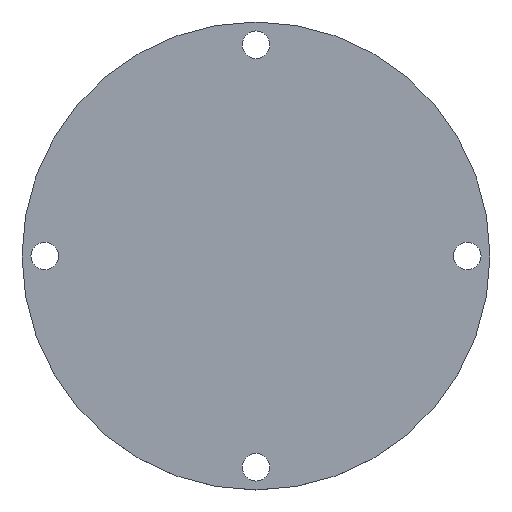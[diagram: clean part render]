
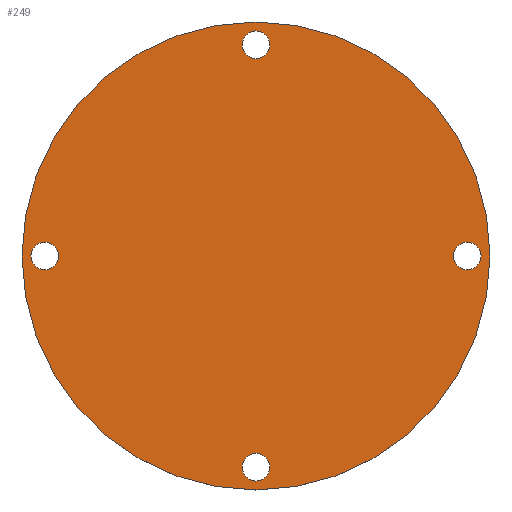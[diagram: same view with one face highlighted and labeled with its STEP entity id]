
A CAD part, top view. The second image highlights one B-rep face of the part: STEP entity #249.
In plain terms, the highlighted planar face has unit normal (0, 0, 1).
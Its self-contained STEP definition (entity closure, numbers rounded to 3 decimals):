
#24 = VERTEX_POINT('',#25);
#25 = CARTESIAN_POINT('',(28.8,0.,2.));
#32 = CYLINDRICAL_SURFACE('',#33,28.8);
#33 = AXIS2_PLACEMENT_3D('',#34,#35,#36);
#34 = CARTESIAN_POINT('',(0.,0.,0.));
#35 = DIRECTION('',(-0.,-0.,-1.));
#36 = DIRECTION('',(1.,0.,0.));
#51 = EDGE_CURVE('',#24,#24,#52,.T.);
#52 = SURFACE_CURVE('',#53,(#58,#65),.PCURVE_S1.);
#53 = CIRCLE('',#54,28.8);
#54 = AXIS2_PLACEMENT_3D('',#55,#56,#57);
#55 = CARTESIAN_POINT('',(0.,0.,2.));
#56 = DIRECTION('',(0.,0.,1.));
#57 = DIRECTION('',(1.,0.,0.));
#58 = PCURVE('',#32,#59);
#59 = DEFINITIONAL_REPRESENTATION('',(#60),#64);
#60 = LINE('',#61,#62);
#61 = CARTESIAN_POINT('',(-0.,-2.));
#62 = VECTOR('',#63,1.);
#63 = DIRECTION('',(-1.,0.));
#64 = ( GEOMETRIC_REPRESENTATION_CONTEXT(2) 
PARAMETRIC_REPRESENTATION_CONTEXT() REPRESENTATION_CONTEXT('2D SPACE',''
  ) );
#65 = PCURVE('',#66,#71);
#66 = PLANE('',#67);
#67 = AXIS2_PLACEMENT_3D('',#68,#69,#70);
#68 = CARTESIAN_POINT('',(0.,0.,2.));
#69 = DIRECTION('',(0.,0.,1.));
#70 = DIRECTION('',(1.,0.,-0.));
#71 = DEFINITIONAL_REPRESENTATION('',(#72),#76);
#72 = CIRCLE('',#73,28.8);
#73 = AXIS2_PLACEMENT_2D('',#74,#75);
#74 = CARTESIAN_POINT('',(0.,0.));
#75 = DIRECTION('',(1.,0.));
#76 = ( GEOMETRIC_REPRESENTATION_CONTEXT(2) 
PARAMETRIC_REPRESENTATION_CONTEXT() REPRESENTATION_CONTEXT('2D SPACE',''
  ) );
#133 = CYLINDRICAL_SURFACE('',#134,1.7);
#134 = AXIS2_PLACEMENT_3D('',#135,#136,#137);
#135 = CARTESIAN_POINT('',(0.,-26.,-0.1));
#136 = DIRECTION('',(-0.,-0.,-1.));
#137 = DIRECTION('',(1.,0.,0.));
#168 = CYLINDRICAL_SURFACE('',#169,1.7);
#169 = AXIS2_PLACEMENT_3D('',#170,#171,#172);
#170 = CARTESIAN_POINT('',(-26.,0.,-0.1));
#171 = DIRECTION('',(-0.,-0.,-1.));
#172 = DIRECTION('',(1.,0.,0.));
#203 = CYLINDRICAL_SURFACE('',#204,1.7);
#204 = AXIS2_PLACEMENT_3D('',#205,#206,#207);
#205 = CARTESIAN_POINT('',(26.,0.,-0.1));
#206 = DIRECTION('',(-0.,-0.,-1.));
#207 = DIRECTION('',(1.,0.,0.));
#238 = CYLINDRICAL_SURFACE('',#239,1.7);
#239 = AXIS2_PLACEMENT_3D('',#240,#241,#242);
#240 = CARTESIAN_POINT('',(0.,26.,-0.1));
#241 = DIRECTION('',(-0.,-0.,-1.));
#242 = DIRECTION('',(1.,0.,0.));
#249 = ADVANCED_FACE('',(#250,#253,#283,#313,#343),#66,.T.);
#250 = FACE_BOUND('',#251,.T.);
#251 = EDGE_LOOP('',(#252));
#252 = ORIENTED_EDGE('',*,*,#51,.T.);
#253 = FACE_BOUND('',#254,.T.);
#254 = EDGE_LOOP('',(#255));
#255 = ORIENTED_EDGE('',*,*,#256,.T.);
#256 = EDGE_CURVE('',#257,#257,#259,.T.);
#257 = VERTEX_POINT('',#258);
#258 = CARTESIAN_POINT('',(1.7,-26.,2.));
#259 = SURFACE_CURVE('',#260,(#265,#276),.PCURVE_S1.);
#260 = CIRCLE('',#261,1.7);
#261 = AXIS2_PLACEMENT_3D('',#262,#263,#264);
#262 = CARTESIAN_POINT('',(0.,-26.,2.));
#263 = DIRECTION('',(0.,0.,-1.));
#264 = DIRECTION('',(1.,0.,0.));
#265 = PCURVE('',#66,#266);
#266 = DEFINITIONAL_REPRESENTATION('',(#267),#275);
#267 = ( BOUNDED_CURVE() B_SPLINE_CURVE(2,(#268,#269,#270,#271,#272,#273
,#274),.UNSPECIFIED.,.T.,.F.) B_SPLINE_CURVE_WITH_KNOTS((1,2,2,2,2,1),(
    -2.094,0.,2.094,4.189,6.283,
8.378),.UNSPECIFIED.) CURVE() GEOMETRIC_REPRESENTATION_ITEM() 
RATIONAL_B_SPLINE_CURVE((1.,0.5,1.,0.5,1.,0.5,1.)) REPRESENTATION_ITEM(
  '') );
#268 = CARTESIAN_POINT('',(1.7,-26.));
#269 = CARTESIAN_POINT('',(1.7,-28.944));
#270 = CARTESIAN_POINT('',(-0.85,-27.472));
#271 = CARTESIAN_POINT('',(-3.4,-26.));
#272 = CARTESIAN_POINT('',(-0.85,-24.528));
#273 = CARTESIAN_POINT('',(1.7,-23.056));
#274 = CARTESIAN_POINT('',(1.7,-26.));
#275 = ( GEOMETRIC_REPRESENTATION_CONTEXT(2) 
PARAMETRIC_REPRESENTATION_CONTEXT() REPRESENTATION_CONTEXT('2D SPACE',''
  ) );
#276 = PCURVE('',#133,#277);
#277 = DEFINITIONAL_REPRESENTATION('',(#278),#282);
#278 = LINE('',#279,#280);
#279 = CARTESIAN_POINT('',(-6.283,-2.1));
#280 = VECTOR('',#281,1.);
#281 = DIRECTION('',(1.,-0.));
#282 = ( GEOMETRIC_REPRESENTATION_CONTEXT(2) 
PARAMETRIC_REPRESENTATION_CONTEXT() REPRESENTATION_CONTEXT('2D SPACE',''
  ) );
#283 = FACE_BOUND('',#284,.T.);
#284 = EDGE_LOOP('',(#285));
#285 = ORIENTED_EDGE('',*,*,#286,.T.);
#286 = EDGE_CURVE('',#287,#287,#289,.T.);
#287 = VERTEX_POINT('',#288);
#288 = CARTESIAN_POINT('',(-24.3,0.,2.));
#289 = SURFACE_CURVE('',#290,(#295,#306),.PCURVE_S1.);
#290 = CIRCLE('',#291,1.7);
#291 = AXIS2_PLACEMENT_3D('',#292,#293,#294);
#292 = CARTESIAN_POINT('',(-26.,0.,2.));
#293 = DIRECTION('',(0.,0.,-1.));
#294 = DIRECTION('',(1.,0.,0.));
#295 = PCURVE('',#66,#296);
#296 = DEFINITIONAL_REPRESENTATION('',(#297),#305);
#297 = ( BOUNDED_CURVE() B_SPLINE_CURVE(2,(#298,#299,#300,#301,#302,#303
,#304),.UNSPECIFIED.,.T.,.F.) B_SPLINE_CURVE_WITH_KNOTS((1,2,2,2,2,1),(
    -2.094,0.,2.094,4.189,6.283,
8.378),.UNSPECIFIED.) CURVE() GEOMETRIC_REPRESENTATION_ITEM() 
RATIONAL_B_SPLINE_CURVE((1.,0.5,1.,0.5,1.,0.5,1.)) REPRESENTATION_ITEM(
  '') );
#298 = CARTESIAN_POINT('',(-24.3,0.));
#299 = CARTESIAN_POINT('',(-24.3,-2.944));
#300 = CARTESIAN_POINT('',(-26.85,-1.472));
#301 = CARTESIAN_POINT('',(-29.4,0.));
#302 = CARTESIAN_POINT('',(-26.85,1.472));
#303 = CARTESIAN_POINT('',(-24.3,2.944));
#304 = CARTESIAN_POINT('',(-24.3,0.));
#305 = ( GEOMETRIC_REPRESENTATION_CONTEXT(2) 
PARAMETRIC_REPRESENTATION_CONTEXT() REPRESENTATION_CONTEXT('2D SPACE',''
  ) );
#306 = PCURVE('',#168,#307);
#307 = DEFINITIONAL_REPRESENTATION('',(#308),#312);
#308 = LINE('',#309,#310);
#309 = CARTESIAN_POINT('',(-6.283,-2.1));
#310 = VECTOR('',#311,1.);
#311 = DIRECTION('',(1.,-0.));
#312 = ( GEOMETRIC_REPRESENTATION_CONTEXT(2) 
PARAMETRIC_REPRESENTATION_CONTEXT() REPRESENTATION_CONTEXT('2D SPACE',''
  ) );
#313 = FACE_BOUND('',#314,.T.);
#314 = EDGE_LOOP('',(#315));
#315 = ORIENTED_EDGE('',*,*,#316,.T.);
#316 = EDGE_CURVE('',#317,#317,#319,.T.);
#317 = VERTEX_POINT('',#318);
#318 = CARTESIAN_POINT('',(27.7,0.,2.));
#319 = SURFACE_CURVE('',#320,(#325,#336),.PCURVE_S1.);
#320 = CIRCLE('',#321,1.7);
#321 = AXIS2_PLACEMENT_3D('',#322,#323,#324);
#322 = CARTESIAN_POINT('',(26.,0.,2.));
#323 = DIRECTION('',(0.,0.,-1.));
#324 = DIRECTION('',(1.,0.,0.));
#325 = PCURVE('',#66,#326);
#326 = DEFINITIONAL_REPRESENTATION('',(#327),#335);
#327 = ( BOUNDED_CURVE() B_SPLINE_CURVE(2,(#328,#329,#330,#331,#332,#333
,#334),.UNSPECIFIED.,.T.,.F.) B_SPLINE_CURVE_WITH_KNOTS((1,2,2,2,2,1),(
    -2.094,0.,2.094,4.189,6.283,
8.378),.UNSPECIFIED.) CURVE() GEOMETRIC_REPRESENTATION_ITEM() 
RATIONAL_B_SPLINE_CURVE((1.,0.5,1.,0.5,1.,0.5,1.)) REPRESENTATION_ITEM(
  '') );
#328 = CARTESIAN_POINT('',(27.7,0.));
#329 = CARTESIAN_POINT('',(27.7,-2.944));
#330 = CARTESIAN_POINT('',(25.15,-1.472));
#331 = CARTESIAN_POINT('',(22.6,0.));
#332 = CARTESIAN_POINT('',(25.15,1.472));
#333 = CARTESIAN_POINT('',(27.7,2.944));
#334 = CARTESIAN_POINT('',(27.7,0.));
#335 = ( GEOMETRIC_REPRESENTATION_CONTEXT(2) 
PARAMETRIC_REPRESENTATION_CONTEXT() REPRESENTATION_CONTEXT('2D SPACE',''
  ) );
#336 = PCURVE('',#203,#337);
#337 = DEFINITIONAL_REPRESENTATION('',(#338),#342);
#338 = LINE('',#339,#340);
#339 = CARTESIAN_POINT('',(-6.283,-2.1));
#340 = VECTOR('',#341,1.);
#341 = DIRECTION('',(1.,-0.));
#342 = ( GEOMETRIC_REPRESENTATION_CONTEXT(2) 
PARAMETRIC_REPRESENTATION_CONTEXT() REPRESENTATION_CONTEXT('2D SPACE',''
  ) );
#343 = FACE_BOUND('',#344,.T.);
#344 = EDGE_LOOP('',(#345));
#345 = ORIENTED_EDGE('',*,*,#346,.T.);
#346 = EDGE_CURVE('',#347,#347,#349,.T.);
#347 = VERTEX_POINT('',#348);
#348 = CARTESIAN_POINT('',(1.7,26.,2.));
#349 = SURFACE_CURVE('',#350,(#355,#366),.PCURVE_S1.);
#350 = CIRCLE('',#351,1.7);
#351 = AXIS2_PLACEMENT_3D('',#352,#353,#354);
#352 = CARTESIAN_POINT('',(0.,26.,2.));
#353 = DIRECTION('',(0.,0.,-1.));
#354 = DIRECTION('',(1.,0.,0.));
#355 = PCURVE('',#66,#356);
#356 = DEFINITIONAL_REPRESENTATION('',(#357),#365);
#357 = ( BOUNDED_CURVE() B_SPLINE_CURVE(2,(#358,#359,#360,#361,#362,#363
,#364),.UNSPECIFIED.,.T.,.F.) B_SPLINE_CURVE_WITH_KNOTS((1,2,2,2,2,1),(
    -2.094,0.,2.094,4.189,6.283,
8.378),.UNSPECIFIED.) CURVE() GEOMETRIC_REPRESENTATION_ITEM() 
RATIONAL_B_SPLINE_CURVE((1.,0.5,1.,0.5,1.,0.5,1.)) REPRESENTATION_ITEM(
  '') );
#358 = CARTESIAN_POINT('',(1.7,26.));
#359 = CARTESIAN_POINT('',(1.7,23.056));
#360 = CARTESIAN_POINT('',(-0.85,24.528));
#361 = CARTESIAN_POINT('',(-3.4,26.));
#362 = CARTESIAN_POINT('',(-0.85,27.472));
#363 = CARTESIAN_POINT('',(1.7,28.944));
#364 = CARTESIAN_POINT('',(1.7,26.));
#365 = ( GEOMETRIC_REPRESENTATION_CONTEXT(2) 
PARAMETRIC_REPRESENTATION_CONTEXT() REPRESENTATION_CONTEXT('2D SPACE',''
  ) );
#366 = PCURVE('',#238,#367);
#367 = DEFINITIONAL_REPRESENTATION('',(#368),#372);
#368 = LINE('',#369,#370);
#369 = CARTESIAN_POINT('',(-6.283,-2.1));
#370 = VECTOR('',#371,1.);
#371 = DIRECTION('',(1.,-0.));
#372 = ( GEOMETRIC_REPRESENTATION_CONTEXT(2) 
PARAMETRIC_REPRESENTATION_CONTEXT() REPRESENTATION_CONTEXT('2D SPACE',''
  ) );
